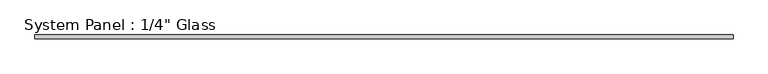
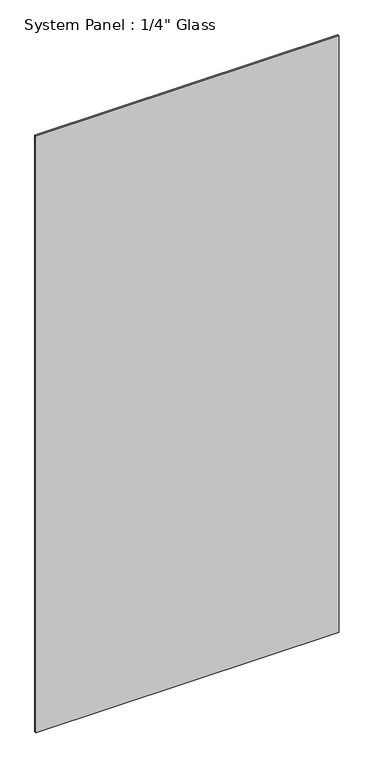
"""IFC4 building model written with IfcOpenShell, lengths in millimetres: plate geometry."""

from ifc_helpers import new_model, si_unit, origin, origin_with_axes, place, context, project, spatial, polyline, outline, extrude, source, transform, mapped, element, save


def plate_474de82a(model_context):
    return source(origin(), model_context, "Body", "SweptSolid", [
        extrude(outline(polyline([(598.5768363, -3.175), (-598.5768363, -3.175), (-598.5768363, 3.175), (598.5768363, 3.175), (598.5768363, -3.175)])), origin_with_axes(), (0.0, 0.0, 1.0), 2489.2),
    ])


if __name__ == "__main__":
    model = new_model("IFC4")
    model_context = context("Model", 3, world=origin())
    ifc_project = project(units=[si_unit("LENGTHUNIT", "METRE", prefix="MILLI")], contexts=[model_context])
    site = spatial("IfcSite", under=ifc_project)
    building = spatial("IfcBuilding", under=site)
    placement = place(None, origin())
    plate_shape = plate_474de82a(model_context)
    element("IfcPlate", 1, ObjectType="System Panel : 1/4\" Glass", at=placement, inside=building, context=model_context, shape_type="MappedRepresentation", body=[
        mapped(plate_shape, transform((0.0, 0.0, 0.0), x_axis=(1.0, 0.0, 0.0), y_axis=(0.0, 1.0, 0.0), z_axis=(0.0, 0.0, 1.0))),
    ])
    save(model, "model.ifc")
